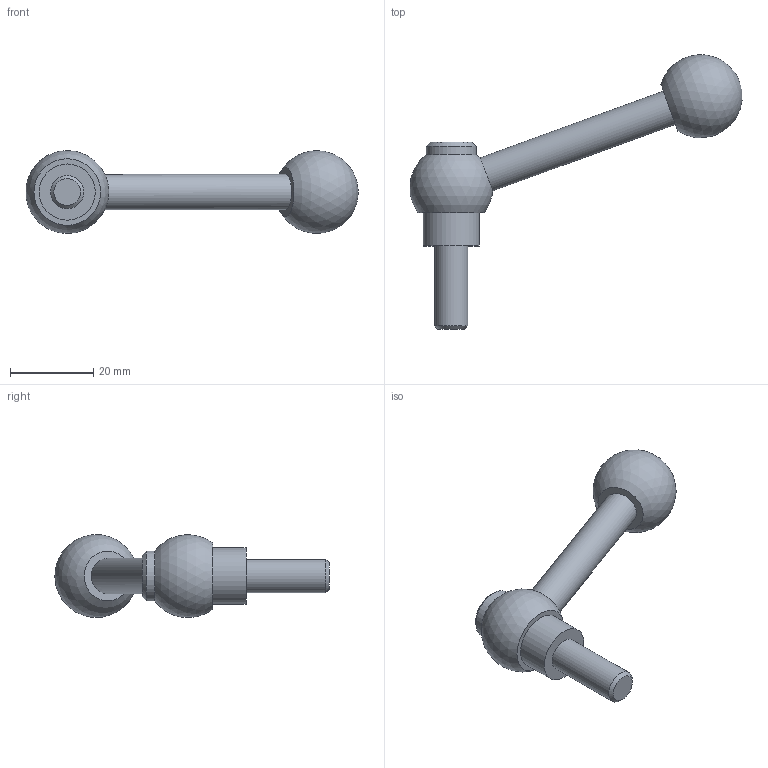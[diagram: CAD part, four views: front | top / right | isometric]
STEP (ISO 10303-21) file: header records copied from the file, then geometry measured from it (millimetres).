
FILE_DESCRIPTION( ( 'STEP AP203' ), '1' );
FILE_NAME( 'C:/Temp/Ganter_Step_05_03_2020/data/2_1/gn_6337_3/gn_6337_3_ms/gn_6337_3_ms_n/Adjustable clamping lever with bolt GN 6337.3-20-M8-20-N.stp', '2020-03-05T11:41:16', ( 'License CC BY-ND 4.0' ), ( 'CADENAS' ), ' ', 'PARTsolutions', ' ' );
FILE_SCHEMA( ( 'CONFIG_CONTROL_DESIGN' ) );
Length unit declared in the file: millimetre
Products named in the file (1): _Adjustable clamping lever with bolt GN 6337.3-20-M8-20-N
Bounding box: 79.86 x 65.98 x 19.97 mm (x, y, z)
Volume: 12803.8 mm3; surface area: 4492.4 mm2
Topology: 1 solids, 1 shells, 13 faces, 22 edges, 14 vertices
Faces by surface type: plane 5, cylinder 4, sphere 2, cone 2
Full cylindrical faces by diameter (mm): 8 x1, 8.5 x1, 12 x1, 13.5 x1
Entity records: 364 total; most frequent: CARTESIAN_POINT 104, DIRECTION 50, AXIS2_PLACEMENT_3D 25, EDGE_LOOP 24, ORIENTED_EDGE 24, FACE_OUTER_BOUND 18, ADVANCED_FACE 13, VERTEX_POINT 13
